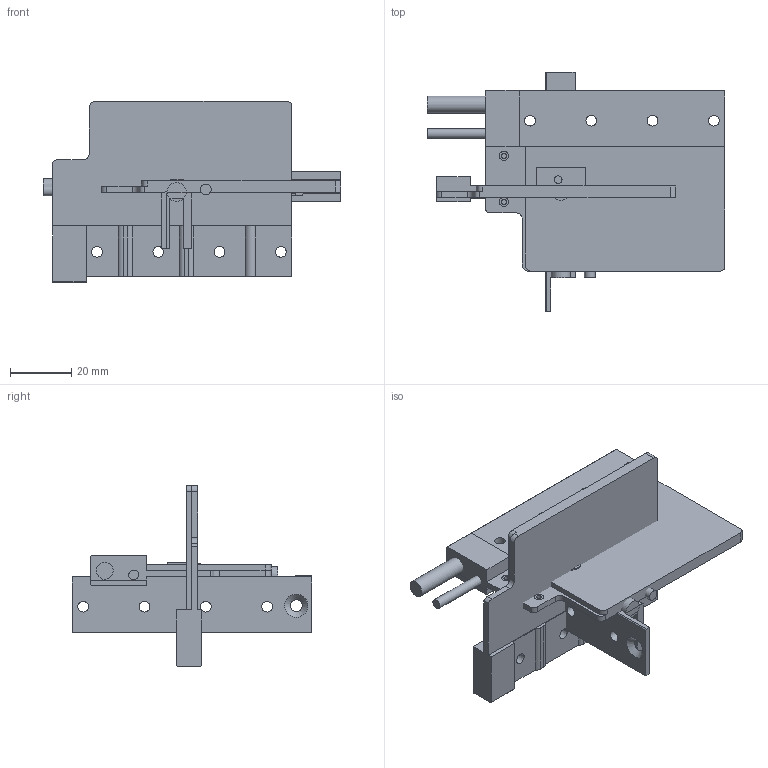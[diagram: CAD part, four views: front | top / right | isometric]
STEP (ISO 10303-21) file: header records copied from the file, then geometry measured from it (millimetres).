
FILE_DESCRIPTION( ( 'Unknown' ), '1' );
FILE_NAME( 'ML1603_01.stp', 'Unknown', ( 'Unknown' ), ( 'Unknown' ), 'XStep 1.0', 'Unknown', ' ' );
FILE_SCHEMA( ( 'CONFIG_CONTROL_DESIGN' ) );
Length unit declared in the file: millimetre
Products named in the file (9): Assem1; Giethars UM3; 4022 363 05262; 4022 363 40132; 4022 363 35012; Motorkabel; 2522 203 04024
Bounding box: 97 x 78 x 59.1 mm (x, y, z)
Volume: 52083.4 mm3; surface area: 36880.5 mm2
Topology: 16 solids, 16 shells, 310 faces, 796 edges, 536 vertices
Faces by surface type: plane 194, cylinder 112, cone 4
Full cylindrical faces by diameter (mm): 1.6 x4, 2.5 x2, 3 x14, 3.2 x2, 3.5 x26, 5.5 x4, 6.2 x2
Entity records: 4973 total; most frequent: DIRECTION 801, CARTESIAN_POINT 781, ORIENTED_EDGE 718, EDGE_CURVE 359, AXIS2_PLACEMENT_3D 278, VERTEX_POINT 258, LINE 245, VECTOR 245
